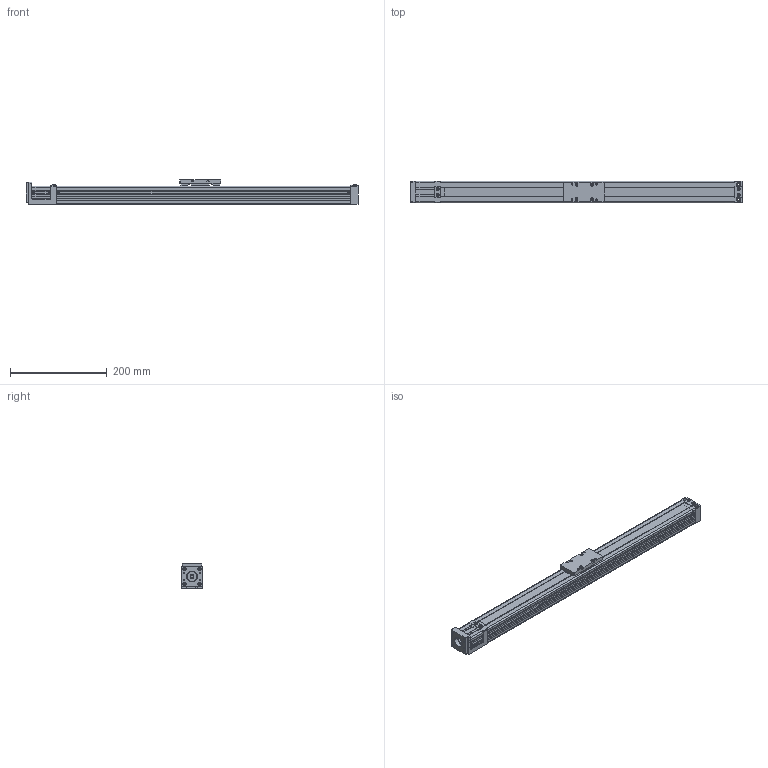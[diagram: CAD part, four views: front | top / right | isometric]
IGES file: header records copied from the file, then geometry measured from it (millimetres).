
Global section: file name: No Iges File Name specified; native system: AutoDesk Inventor R10; preprocessor: AutoDesk Inventor Iges Exporter R10; author: No Author specified; organization: No Organization specified; date: 20110617.145025; units: millimetre
Bounding box: 686 x 45 x 50 mm (x, y, z)
Surface area: 269616.6 mm2 (no closed solid volume)
Topology: 0 solids, 0 shells, 874 faces, 5822 edges, 5802 vertices
Faces by surface type: bspline 874
